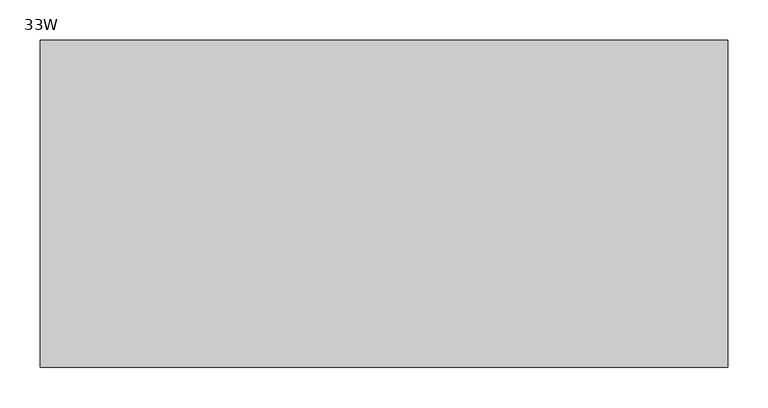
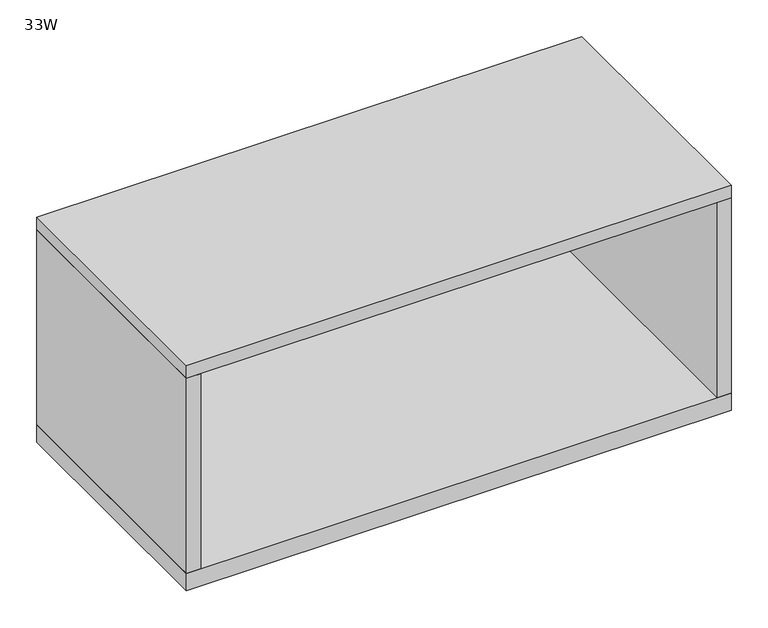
"""IFC4 building model written with IfcOpenShell, lengths in millimetres: furniture geometry, Steelcase - Montage - Healthcare Components - Patient Chart Box : 33W."""

from ifc_helpers import new_model, si_unit, frame, origin, place, context, project, spatial, polyline, outline, extrude, source, transform, mapped, element, save


def furniture_33w_c82f8737(model_context):
    return source(origin(), model_context, "Body", "SweptSolid", [
        extrude(outline(polyline([(922.401, -203.2), (68.199, -203.2), (68.199, 203.2), (922.401, 203.2), (922.401, -203.2)])), frame((0.0, 0.0, 763.6509893), z_axis=(0.0, 0.0, 1.0), x_axis=(1.0, 0.0, 0.0)), (0.0, 0.0, 1.0), 28.6004345),
        extrude(outline(polyline([(922.401, -203.2), (68.199, -203.2), (68.199, 203.2), (922.401, 203.2), (922.401, -203.2)])), frame((0.0, 0.0, 1116.177582), z_axis=(0.0, 0.0, 1.0), x_axis=(1.0, 0.0, 0.0)), (0.0, 0.0, 1.0), 20.4724422),
        extrude(outline(polyline([(90.297, -203.2), (68.199, -203.2), (68.199, 203.2), (90.297, 203.2), (90.297, -203.2)])), frame((0.0, 0.0, 792.2514238), z_axis=(0.0, 0.0, 1.0), x_axis=(1.0, 0.0, 0.0)), (0.0, 0.0, 1.0), 323.9261581),
        extrude(outline(polyline([(922.401, -203.2), (900.4046, -203.2), (900.4046, 203.2), (922.401, 203.2), (922.401, -203.2)])), frame((0.0, 0.0, 792.2514238), z_axis=(0.0, 0.0, 1.0), x_axis=(1.0, 0.0, 0.0)), (0.0, 0.0, 1.0), 323.9261581),
    ])


if __name__ == "__main__":
    model = new_model("IFC4")
    model_context = context("Model", 3, world=origin())
    ifc_project = project(units=[si_unit("LENGTHUNIT", "METRE", prefix="MILLI")], contexts=[model_context])
    site = spatial("IfcSite", under=ifc_project)
    building = spatial("IfcBuilding", under=site)
    placement = place(None, origin())
    furniture_33w_shape = furniture_33w_c82f8737(model_context)
    element("IfcFurniture", 1, ObjectType="Steelcase - Montage - Healthcare Components - Patient Chart Box : 33W", at=placement, inside=building, context=model_context, shape_type="MappedRepresentation", body=[
        mapped(furniture_33w_shape, transform((0.0, 0.0, 0.0), x_axis=(1.0, 0.0, 0.0), y_axis=(0.0, 1.0, 0.0), z_axis=(0.0, 0.0, 1.0))),
    ])
    save(model, "model.ifc")
